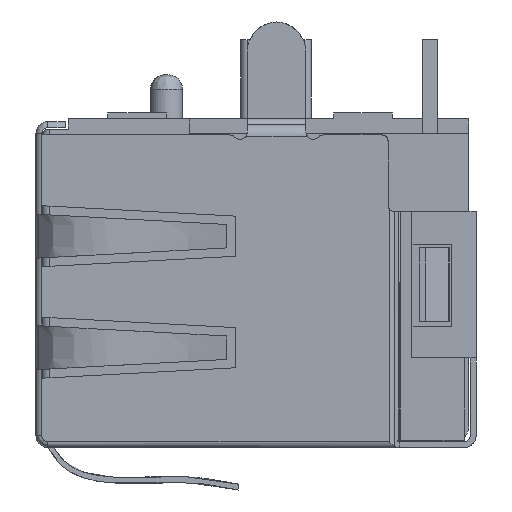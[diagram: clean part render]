
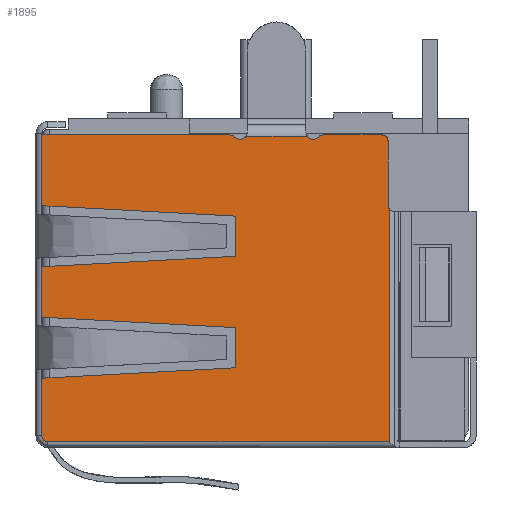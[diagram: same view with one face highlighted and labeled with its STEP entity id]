
A CAD part, left-side view. The second image highlights one B-rep face of the part: STEP entity #1895.
In plain terms, the highlighted planar face has unit normal (-1, 0, 0).
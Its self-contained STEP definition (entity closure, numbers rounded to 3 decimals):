
#1895=ADVANCED_FACE('',(#4174,#4175,#4176),#2823,.T.);
#2823=PLANE('',#18016);
#3401=CIRCLE('',#18015,0.2);
#3915=B_SPLINE_CURVE_WITH_KNOTS('',3,(#24277,#24278,#24279,#24280),
 .UNSPECIFIED.,.F.,.F.,(4,4),(0.,1.),.UNSPECIFIED.);
#3916=B_SPLINE_CURVE_WITH_KNOTS('',3,(#24298,#24299,#24300,#24301),
 .UNSPECIFIED.,.F.,.F.,(4,4),(0.,1.),.UNSPECIFIED.);
#3917=B_SPLINE_CURVE_WITH_KNOTS('',3,(#24305,#24306,#24307,#24308),
 .UNSPECIFIED.,.F.,.F.,(4,4),(0.,1.),.UNSPECIFIED.);
#3918=B_SPLINE_CURVE_WITH_KNOTS('',3,(#24312,#24313,#24314,#24315),
 .UNSPECIFIED.,.F.,.F.,(4,4),(0.,1.),.UNSPECIFIED.);
#3919=B_SPLINE_CURVE_WITH_KNOTS('',3,(#24317,#24318,#24319,#24320),
 .UNSPECIFIED.,.F.,.F.,(4,4),(0.,1.),.UNSPECIFIED.);
#3920=B_SPLINE_CURVE_WITH_KNOTS('',3,(#24324,#24325,#24326,#24327),
 .UNSPECIFIED.,.F.,.F.,(4,4),(0.,1.),.UNSPECIFIED.);
#3921=B_SPLINE_CURVE_WITH_KNOTS('',3,(#24329,#24330,#24331,#24332),
 .UNSPECIFIED.,.F.,.F.,(4,4),(0.,1.),.UNSPECIFIED.);
#4174=FACE_BOUND('',#4250,.T.);
#4175=FACE_BOUND('',#4251,.T.);
#4176=FACE_BOUND('',#4252,.T.);
#4250=EDGE_LOOP('',(#5389,#5390,#5391,#5392,#5393,#5394,#5395,#5396,#5397,
#5398,#5399,#5400,#5401,#5402,#5403,#5404,#5405,#5406,#5407));
#4251=EDGE_LOOP('',(#5408,#5409,#5410,#5411));
#4252=EDGE_LOOP('',(#5412,#5413,#5414,#5415));
#5389=ORIENTED_EDGE('',*,*,#12040,.T.);
#5390=ORIENTED_EDGE('',*,*,#12041,.T.);
#5391=ORIENTED_EDGE('',*,*,#12042,.T.);
#5392=ORIENTED_EDGE('',*,*,#12043,.F.);
#5393=ORIENTED_EDGE('',*,*,#12044,.T.);
#5394=ORIENTED_EDGE('',*,*,#12045,.F.);
#5395=ORIENTED_EDGE('',*,*,#12046,.T.);
#5396=ORIENTED_EDGE('',*,*,#12047,.T.);
#5397=ORIENTED_EDGE('',*,*,#12048,.T.);
#5398=ORIENTED_EDGE('',*,*,#12049,.T.);
#5399=ORIENTED_EDGE('',*,*,#12050,.T.);
#5400=ORIENTED_EDGE('',*,*,#12051,.T.);
#5401=ORIENTED_EDGE('',*,*,#12052,.T.);
#5402=ORIENTED_EDGE('',*,*,#12053,.T.);
#5403=ORIENTED_EDGE('',*,*,#12054,.T.);
#5404=ORIENTED_EDGE('',*,*,#12055,.T.);
#5405=ORIENTED_EDGE('',*,*,#12056,.T.);
#5406=ORIENTED_EDGE('',*,*,#12057,.T.);
#5407=ORIENTED_EDGE('',*,*,#12058,.T.);
#5408=ORIENTED_EDGE('',*,*,#12059,.F.);
#5409=ORIENTED_EDGE('',*,*,#12060,.F.);
#5410=ORIENTED_EDGE('',*,*,#12061,.F.);
#5411=ORIENTED_EDGE('',*,*,#12062,.F.);
#5412=ORIENTED_EDGE('',*,*,#12063,.F.);
#5413=ORIENTED_EDGE('',*,*,#12064,.F.);
#5414=ORIENTED_EDGE('',*,*,#12065,.F.);
#5415=ORIENTED_EDGE('',*,*,#12066,.F.);
#10394=VERTEX_POINT('',#24275);
#10395=VERTEX_POINT('',#24276);
#10396=VERTEX_POINT('',#24281);
#10397=VERTEX_POINT('',#24283);
#10398=VERTEX_POINT('',#24285);
#10399=VERTEX_POINT('',#24287);
#10400=VERTEX_POINT('',#24289);
#10401=VERTEX_POINT('',#24291);
#10402=VERTEX_POINT('',#24293);
#10403=VERTEX_POINT('',#24295);
#10404=VERTEX_POINT('',#24297);
#10405=VERTEX_POINT('',#24302);
#10406=VERTEX_POINT('',#24304);
#10407=VERTEX_POINT('',#24309);
#10408=VERTEX_POINT('',#24311);
#10409=VERTEX_POINT('',#24316);
#10410=VERTEX_POINT('',#24321);
#10411=VERTEX_POINT('',#24323);
#10412=VERTEX_POINT('',#24328);
#10413=VERTEX_POINT('',#24334);
#10414=VERTEX_POINT('',#24335);
#10415=VERTEX_POINT('',#24337);
#10416=VERTEX_POINT('',#24339);
#10417=VERTEX_POINT('',#24342);
#10418=VERTEX_POINT('',#24343);
#10419=VERTEX_POINT('',#24345);
#10420=VERTEX_POINT('',#24347);
#12040=EDGE_CURVE('',#10394,#10395,#14515,.T.);
#12041=EDGE_CURVE('',#10395,#10396,#3915,.T.);
#12042=EDGE_CURVE('',#10396,#10397,#14516,.T.);
#12043=EDGE_CURVE('',#10398,#10397,#14517,.T.);
#12044=EDGE_CURVE('',#10398,#10399,#14518,.T.);
#12045=EDGE_CURVE('',#10400,#10399,#14519,.T.);
#12046=EDGE_CURVE('',#10400,#10401,#14520,.T.);
#12047=EDGE_CURVE('',#10401,#10402,#3401,.T.);
#12048=EDGE_CURVE('',#10402,#10403,#14521,.T.);
#12049=EDGE_CURVE('',#10403,#10404,#14522,.T.);
#12050=EDGE_CURVE('',#10404,#10405,#3916,.T.);
#12051=EDGE_CURVE('',#10405,#10406,#14523,.T.);
#12052=EDGE_CURVE('',#10406,#10407,#3917,.T.);
#12053=EDGE_CURVE('',#10407,#10408,#14524,.T.);
#12054=EDGE_CURVE('',#10408,#10409,#3918,.T.);
#12055=EDGE_CURVE('',#10409,#10410,#3919,.T.);
#12056=EDGE_CURVE('',#10410,#10411,#14525,.T.);
#12057=EDGE_CURVE('',#10411,#10412,#3920,.T.);
#12058=EDGE_CURVE('',#10412,#10394,#3921,.T.);
#12059=EDGE_CURVE('',#10413,#10414,#14526,.T.);
#12060=EDGE_CURVE('',#10415,#10413,#14527,.T.);
#12061=EDGE_CURVE('',#10416,#10415,#14528,.T.);
#12062=EDGE_CURVE('',#10414,#10416,#14529,.T.);
#12063=EDGE_CURVE('',#10417,#10418,#14530,.T.);
#12064=EDGE_CURVE('',#10419,#10417,#14531,.T.);
#12065=EDGE_CURVE('',#10420,#10419,#14532,.T.);
#12066=EDGE_CURVE('',#10418,#10420,#14533,.T.);
#14515=LINE('',#24274,#16287);
#14516=LINE('',#24282,#16288);
#14517=LINE('',#24284,#16289);
#14518=LINE('',#24286,#16290);
#14519=LINE('',#24288,#16291);
#14520=LINE('',#24290,#16292);
#14521=LINE('',#24294,#16293);
#14522=LINE('',#24296,#16294);
#14523=LINE('',#24303,#16295);
#14524=LINE('',#24310,#16296);
#14525=LINE('',#24322,#16297);
#14526=LINE('',#24333,#16298);
#14527=LINE('',#24336,#16299);
#14528=LINE('',#24338,#16300);
#14529=LINE('',#24340,#16301);
#14530=LINE('',#24341,#16302);
#14531=LINE('',#24344,#16303);
#14532=LINE('',#24346,#16304);
#14533=LINE('',#24348,#16305);
#16287=VECTOR('',#19491,1.);
#16288=VECTOR('',#19492,1.);
#16289=VECTOR('',#19493,1.);
#16290=VECTOR('',#19494,1.);
#16291=VECTOR('',#19495,1.);
#16292=VECTOR('',#19496,1.);
#16293=VECTOR('',#19499,1.);
#16294=VECTOR('',#19500,1.);
#16295=VECTOR('',#19501,1.);
#16296=VECTOR('',#19502,1.);
#16297=VECTOR('',#19503,1.);
#16298=VECTOR('',#19504,1.);
#16299=VECTOR('',#19505,1.);
#16300=VECTOR('',#19506,1.);
#16301=VECTOR('',#19507,1.);
#16302=VECTOR('',#19508,1.);
#16303=VECTOR('',#19509,1.);
#16304=VECTOR('',#19510,1.);
#16305=VECTOR('',#19511,1.);
#18015=AXIS2_PLACEMENT_3D('',#24292,#19497,#19498);
#18016=AXIS2_PLACEMENT_3D('',#24349,#19512,#19513);
#19491=DIRECTION('',(0.,1.,0.));
#19492=DIRECTION('',(0.,0.,-1.));
#19493=DIRECTION('',(0.,0.,1.));
#19494=DIRECTION('',(0.,0.,-1.));
#19495=DIRECTION('',(0.,0.,1.));
#19496=DIRECTION('',(0.,0.,-1.));
#19497=DIRECTION('',(-1.,0.,0.));
#19498=DIRECTION('',(0.,0.,1.));
#19499=DIRECTION('',(0.,-1.,0.));
#19500=DIRECTION('',(0.,0.,1.));
#19501=DIRECTION('',(0.,0.,1.));
#19502=DIRECTION('',(0.,1.,0.));
#19503=DIRECTION('',(0.,1.,0.));
#19504=DIRECTION('',(0.,-0.999,0.054));
#19505=DIRECTION('',(0.,0.,-1.));
#19506=DIRECTION('',(0.,0.999,0.054));
#19507=DIRECTION('',(0.,0.,1.));
#19508=DIRECTION('',(0.,-0.999,0.054));
#19509=DIRECTION('',(0.,0.,-1.));
#19510=DIRECTION('',(0.,0.999,0.054));
#19511=DIRECTION('',(0.,0.,1.));
#19512=DIRECTION('',(-1.,0.,0.));
#19513=DIRECTION('',(0.,1.,0.));
#24274=CARTESIAN_POINT('',(-8.1,-32.799,-0.55));
#24275=CARTESIAN_POINT('',(-8.1,-27.108,-0.55));
#24276=CARTESIAN_POINT('',(-8.1,-20.722,-0.55));
#24277=CARTESIAN_POINT('',(-8.1,-20.722,-0.55));
#24278=CARTESIAN_POINT('',(-8.1,-20.717,-0.534));
#24279=CARTESIAN_POINT('',(-8.1,-20.715,-0.517));
#24280=CARTESIAN_POINT('',(-8.1,-20.715,-0.5));
#24281=CARTESIAN_POINT('',(-8.1,-20.715,-0.5));
#24282=CARTESIAN_POINT('',(-8.1,-20.715,-3.25));
#24283=CARTESIAN_POINT('',(-8.1,-20.715,-3.261));
#24284=CARTESIAN_POINT('',(-8.1,-20.715,-4.2));
#24285=CARTESIAN_POINT('',(-8.1,-20.715,-4.739));
#24286=CARTESIAN_POINT('',(-8.1,-20.715,-7.05));
#24287=CARTESIAN_POINT('',(-8.1,-20.715,-7.061));
#24288=CARTESIAN_POINT('',(-8.1,-20.715,-8.));
#24289=CARTESIAN_POINT('',(-8.1,-20.715,-8.539));
#24290=CARTESIAN_POINT('',(-8.1,-20.715,-10.8));
#24291=CARTESIAN_POINT('',(-8.1,-20.715,-10.8));
#24292=CARTESIAN_POINT('',(-8.1,-20.915,-10.8));
#24293=CARTESIAN_POINT('',(-8.1,-20.915,-11.));
#24294=CARTESIAN_POINT('',(-8.1,-32.559,-11.));
#24295=CARTESIAN_POINT('',(-8.1,-32.559,-11.));
#24296=CARTESIAN_POINT('',(-8.1,-32.559,0.02));
#24297=CARTESIAN_POINT('',(-8.1,-32.559,-3.075));
#24298=CARTESIAN_POINT('',(-8.1,-32.559,-3.075));
#24299=CARTESIAN_POINT('',(-8.1,-32.53,-3.038));
#24300=CARTESIAN_POINT('',(-8.1,-32.515,-2.997));
#24301=CARTESIAN_POINT('',(-8.1,-32.515,-2.95));
#24302=CARTESIAN_POINT('',(-8.1,-32.515,-2.95));
#24303=CARTESIAN_POINT('',(-8.1,-32.515,0.02));
#24304=CARTESIAN_POINT('',(-8.1,-32.515,-0.75));
#24305=CARTESIAN_POINT('',(-8.1,-32.515,-0.75));
#24306=CARTESIAN_POINT('',(-8.1,-32.515,-0.64));
#24307=CARTESIAN_POINT('',(-8.1,-32.426,-0.55));
#24308=CARTESIAN_POINT('',(-8.1,-32.315,-0.55));
#24309=CARTESIAN_POINT('',(-8.1,-32.315,-0.55));
#24310=CARTESIAN_POINT('',(-8.1,-32.799,-0.55));
#24311=CARTESIAN_POINT('',(-8.1,-30.322,-0.55));
#24312=CARTESIAN_POINT('',(-8.1,-30.322,-0.55));
#24313=CARTESIAN_POINT('',(-8.1,-30.256,-0.55));
#24314=CARTESIAN_POINT('',(-8.1,-30.191,-0.577));
#24315=CARTESIAN_POINT('',(-8.1,-30.144,-0.625));
#24316=CARTESIAN_POINT('',(-8.1,-30.144,-0.625));
#24317=CARTESIAN_POINT('',(-8.1,-30.144,-0.625));
#24318=CARTESIAN_POINT('',(-8.1,-30.043,-0.728));
#24319=CARTESIAN_POINT('',(-8.1,-29.854,-0.718));
#24320=CARTESIAN_POINT('',(-8.1,-29.765,-0.6));
#24321=CARTESIAN_POINT('',(-8.1,-29.765,-0.6));
#24322=CARTESIAN_POINT('',(-8.1,-32.799,-0.6));
#24323=CARTESIAN_POINT('',(-8.1,-27.665,-0.6));
#24324=CARTESIAN_POINT('',(-8.1,-27.665,-0.6));
#24325=CARTESIAN_POINT('',(-8.1,-27.579,-0.715));
#24326=CARTESIAN_POINT('',(-8.1,-27.39,-0.73));
#24327=CARTESIAN_POINT('',(-8.1,-27.287,-0.625));
#24328=CARTESIAN_POINT('',(-8.1,-27.287,-0.625));
#24329=CARTESIAN_POINT('',(-8.1,-27.287,-0.625));
#24330=CARTESIAN_POINT('',(-8.1,-27.24,-0.577));
#24331=CARTESIAN_POINT('',(-8.1,-27.176,-0.55));
#24332=CARTESIAN_POINT('',(-8.1,-27.108,-0.55));
#24333=CARTESIAN_POINT('',(-8.1,-33.036,-4.376));
#24334=CARTESIAN_POINT('',(-8.1,-20.755,-5.038));
#24335=CARTESIAN_POINT('',(-8.1,-27.315,-4.684));
#24336=CARTESIAN_POINT('',(-8.1,-20.755,0.02));
#24337=CARTESIAN_POINT('',(-8.1,-20.755,-2.962));
#24338=CARTESIAN_POINT('',(-8.1,-32.604,-3.601));
#24339=CARTESIAN_POINT('',(-8.1,-27.315,-3.316));
#24340=CARTESIAN_POINT('',(-8.1,-27.315,0.02));
#24341=CARTESIAN_POINT('',(-8.1,-33.24,-8.165));
#24342=CARTESIAN_POINT('',(-8.1,-20.755,-8.838));
#24343=CARTESIAN_POINT('',(-8.1,-27.315,-8.484));
#24344=CARTESIAN_POINT('',(-8.1,-20.755,0.02));
#24345=CARTESIAN_POINT('',(-8.1,-20.755,-6.762));
#24346=CARTESIAN_POINT('',(-8.1,-32.4,-7.39));
#24347=CARTESIAN_POINT('',(-8.1,-27.315,-7.116));
#24348=CARTESIAN_POINT('',(-8.1,-27.315,0.02));
#24349=CARTESIAN_POINT('',(-8.1,-32.799,0.02));
